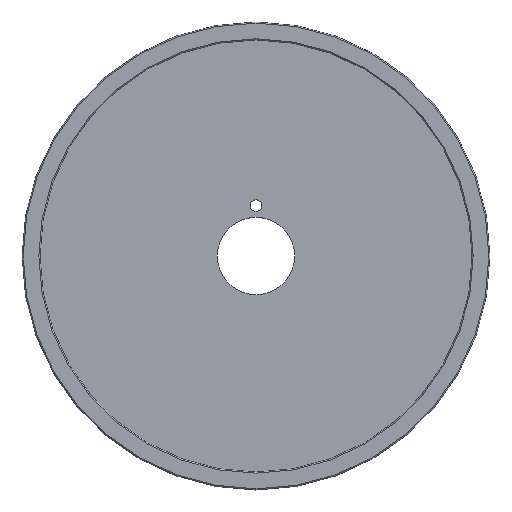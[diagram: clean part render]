
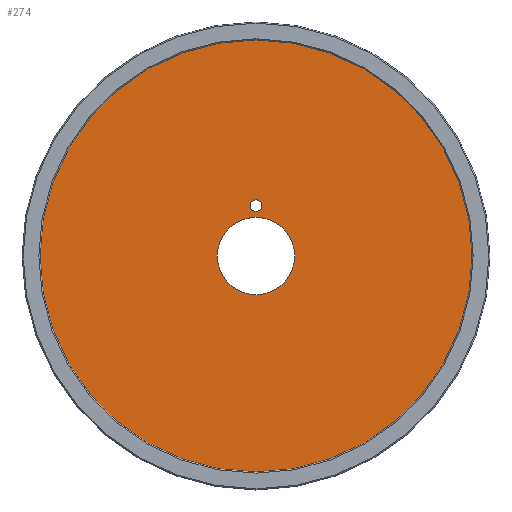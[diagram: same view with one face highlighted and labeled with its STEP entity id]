
A CAD part, top view. The second image highlights one B-rep face of the part: STEP entity #274.
In plain terms, the highlighted planar face has unit normal (0, 0, 1).
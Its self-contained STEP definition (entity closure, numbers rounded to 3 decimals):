
#7 = DIRECTION ( 'NONE',  ( 0., 0., 1. ) ) ;
#10 = ORIENTED_EDGE ( 'NONE', *, *, #434, .F. ) ;
#13 = EDGE_CURVE ( 'NONE', #365, #301, #461, .T. ) ;
#21 = CIRCLE ( 'NONE', #306, 17.25 ) ;
#24 = DIRECTION ( 'NONE',  ( 1., 0., 0. ) ) ;
#35 = EDGE_CURVE ( 'NONE', #258, #159, #354, .T. ) ;
#51 = EDGE_CURVE ( 'NONE', #332, #138, #21, .T. ) ;
#54 = CIRCLE ( 'NONE', #118, 96.5 ) ;
#62 = DIRECTION ( 'NONE',  ( 0., 0., 1. ) ) ;
#68 = PLANE ( 'NONE',  #462 ) ;
#77 = CIRCLE ( 'NONE', #389, 17.25 ) ;
#83 = CARTESIAN_POINT ( 'NONE',  ( -17.25, 0., 4. ) ) ;
#90 = DIRECTION ( 'NONE',  ( 1., 0., 0. ) ) ;
#94 = ORIENTED_EDGE ( 'NONE', *, *, #13, .F. ) ;
#118 = AXIS2_PLACEMENT_3D ( 'NONE', #287, #62, #215 ) ;
#125 = DIRECTION ( 'NONE',  ( 1., 0., 0. ) ) ;
#127 = EDGE_CURVE ( 'NONE', #301, #365, #437, .T. ) ;
#133 = CARTESIAN_POINT ( 'NONE',  ( 17.25, 0., 4. ) ) ;
#138 = VERTEX_POINT ( 'NONE', #83 ) ;
#140 = DIRECTION ( 'NONE',  ( 0., 0., 1. ) ) ;
#141 = FACE_BOUND ( 'NONE', #239, .T. ) ;
#159 = VERTEX_POINT ( 'NONE', #431 ) ;
#171 = FACE_BOUND ( 'NONE', #424, .T. ) ;
#190 = EDGE_CURVE ( 'NONE', #159, #258, #54, .T. ) ;
#199 = ORIENTED_EDGE ( 'NONE', *, *, #35, .T. ) ;
#209 = FACE_OUTER_BOUND ( 'NONE', #270, .T. ) ;
#215 = DIRECTION ( 'NONE',  ( 1., 0., 0. ) ) ;
#217 = DIRECTION ( 'NONE',  ( 0., 0., 1. ) ) ;
#237 = AXIS2_PLACEMENT_3D ( 'NONE', #440, #471, #90 ) ;
#239 = EDGE_LOOP ( 'NONE', ( #466, #10 ) ) ;
#258 = VERTEX_POINT ( 'NONE', #371 ) ;
#260 = CARTESIAN_POINT ( 'NONE',  ( 2.6, 22.5, 4. ) ) ;
#263 = DIRECTION ( 'NONE',  ( 1., 0., 0. ) ) ;
#270 = EDGE_LOOP ( 'NONE', ( #472, #199 ) ) ;
#274 = ADVANCED_FACE ( 'NONE', ( #171, #209, #141 ), #68, .T. ) ;
#278 = CARTESIAN_POINT ( 'NONE',  ( 0., 22.5, 4. ) ) ;
#284 = DIRECTION ( 'NONE',  ( 1., 0., 0. ) ) ;
#287 = CARTESIAN_POINT ( 'NONE',  ( 0., 0., 4. ) ) ;
#301 = VERTEX_POINT ( 'NONE', #331 ) ;
#306 = AXIS2_PLACEMENT_3D ( 'NONE', #430, #473, #125 ) ;
#331 = CARTESIAN_POINT ( 'NONE',  ( -2.6, 22.5, 4. ) ) ;
#332 = VERTEX_POINT ( 'NONE', #133 ) ;
#335 = DIRECTION ( 'NONE',  ( 1., 0., 0. ) ) ;
#352 = ORIENTED_EDGE ( 'NONE', *, *, #127, .F. ) ;
#354 = CIRCLE ( 'NONE', #237, 96.5 ) ;
#365 = VERTEX_POINT ( 'NONE', #260 ) ;
#371 = CARTESIAN_POINT ( 'NONE',  ( -96.5, 0., 4. ) ) ;
#377 = AXIS2_PLACEMENT_3D ( 'NONE', #278, #140, #335 ) ;
#386 = CARTESIAN_POINT ( 'NONE',  ( 0., 0., 4. ) ) ;
#389 = AXIS2_PLACEMENT_3D ( 'NONE', #386, #217, #263 ) ;
#424 = EDGE_LOOP ( 'NONE', ( #94, #352 ) ) ;
#430 = CARTESIAN_POINT ( 'NONE',  ( 0., 0., 4. ) ) ;
#431 = CARTESIAN_POINT ( 'NONE',  ( 96.5, 0., 4. ) ) ;
#434 = EDGE_CURVE ( 'NONE', #138, #332, #77, .T. ) ;
#437 = CIRCLE ( 'NONE', #447, 2.6 ) ;
#440 = CARTESIAN_POINT ( 'NONE',  ( 0., 0., 4. ) ) ;
#447 = AXIS2_PLACEMENT_3D ( 'NONE', #477, #7, #284 ) ;
#461 = CIRCLE ( 'NONE', #377, 2.6 ) ;
#462 = AXIS2_PLACEMENT_3D ( 'NONE', #491, #492, #24 ) ;
#466 = ORIENTED_EDGE ( 'NONE', *, *, #51, .F. ) ;
#471 = DIRECTION ( 'NONE',  ( 0., 0., 1. ) ) ;
#472 = ORIENTED_EDGE ( 'NONE', *, *, #190, .T. ) ;
#473 = DIRECTION ( 'NONE',  ( 0., 0., 1. ) ) ;
#477 = CARTESIAN_POINT ( 'NONE',  ( 0., 22.5, 4. ) ) ;
#491 = CARTESIAN_POINT ( 'NONE',  ( 0., 0., 4. ) ) ;
#492 = DIRECTION ( 'NONE',  ( 0., 0., 1. ) ) ;
